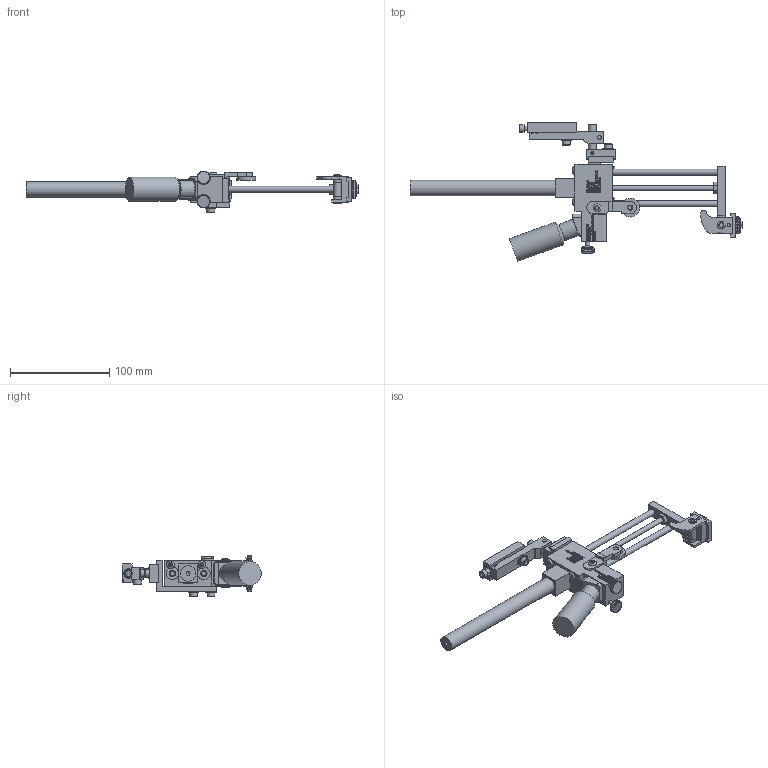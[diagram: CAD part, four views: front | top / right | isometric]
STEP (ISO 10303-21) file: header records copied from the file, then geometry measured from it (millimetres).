
FILE_DESCRIPTION((''),'2;1');
FILE_NAME('C:\Documents and Settings\Ron\My Documents\Inventor\Sprinter Drawing\Machines in Inventor\Model 66\Type\Ext Str\E2\Brkt\Ext\Model 66 E2 type Ext w brkt mod 2012.stp','2012-02-29T08:24:19',('Ron'),(''),'Autodesk Inventor 2011','Autodesk Inventor 2011','');
FILE_SCHEMA(('AUTOMOTIVE_DESIGN { 1 0 10303 214 1 1 1 1 }'));
Length unit declared in the file: inch
Products named in the file (43): Model 66 E2 type Ext w brkt mod 2012; 66 Frame Body Assy Std w brkt; 66 Frame Body; Hexagon Socket Button Head Cap Screw - Inch 8 - 32 x 1/4; Hexagon Socket Head Cap Screw - Inch No. 8 - 32 UNC - 1 1/2; 66 Linear Bearing; 66 Ink; 66 INK BOTTLE; 66 Ink Pad; 66 Wheel Bracket; 8-32x0.25 Hexagon Socket Button Head Cap Screw ANSI/ASME B18.3; 44 Cam Wheel; 44 Wheel Retainer; 10 Ink Resevior Lock Screw; Model 66 Bracket; Model 66 RPB; rpb4; rpb3; rpb-1; rpb2; No. 10-24x0.88 Hexagon socket head cap screw ANSI/ASME B18.3; Type B - Plain Washer (Inch) No. 10 - narrow - Type B; 66 Machine Mounting Pivot Bracket; Pin - Hardened Ground Machine Dowel (Inch) 1/8 x 3/8; Rod Carrier Extended E2; Rod Carrier Extended; 66 Rod Carrier; Type A - Hexagon Socket Set Screw - Cup Point - Inch 8-32 UNC x 0.32; 66 PIVOT SHAFT; 66 PIVOT SHAFT LOCKING RING; 23 66 invert block; AS 1112 (4)  - Metric M6; 66 Spring; 19 Rod Carrier Set Screws; 44 & up Removable Marking Head Securing Post; Hexagon Socket Set Screw - Flat Point - Inch 6-32 UNC x 0.45; 66 type clip; 66 Marking Head Plate; 66-28; Part # 28 - number 66 stamp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
Assembly tree (60 placements, depth 5):
  Model 66 E2 type Ext w brkt mod 2012
    66 Frame Body Assy Std w brkt
      66 Frame Body
      Hexagon Socket Button Head Cap Screw - Inch 8 - 32 x 1/4  x4
      Hexagon Socket Head Cap Screw - Inch No. 8 - 32 UNC - 1 1/2  x2
      66 Linear Bearing  x2
      66 Ink
      66 INK BOTTLE
      66 Ink Pad
      66 Wheel Bracket
      8-32x0.25 Hexagon Socket Button Head Cap Screw ANSI/ASME B18.3
      44 Cam Wheel
      44 Wheel Retainer
      10 Ink Resevior Lock Screw  x2
      Model 66 Bracket
        Model 66 RPB
          rpb4
          rpb3
          rpb-1
          rpb2
          No. 10-24x0.88 Hexagon socket head cap screw ANSI/ASME B18.3  x5
          Type B - Plain Washer (Inch) No. 10 - narrow - Type B  x4
          66 Machine Mounting Pivot Bracket
          Pin - Hardened Ground Machine Dowel (Inch) 1/8 x 3/8  x2
    Rod Carrier Extended E2
      Rod Carrier Extended
        66 Rod Carrier
        Type A - Hexagon Socket Set Screw - Cup Point - Inch 8-32 UNC x 0.32
        66 PIVOT SHAFT
        66 PIVOT SHAFT LOCKING RING  x2
        23 66 invert block
        AS 1112 (4)  - Metric M6
        66 Spring
        19 Rod Carrier Set Screws  x2
        44 & up Removable Marking Head Securing Post
        Hexagon Socket Set Screw - Flat Point - Inch 6-32 UNC x 0.45
        66 type clip
          66 Marking Head Plate
          44 & up Removable Marking Head Securing Post
          66-28
          Part # 28 - number 66 stamp
      E2  x2
    E2 Extended
    10-32 PORTS DECAL
Bounding box: 334.31 x 139.56 x 42.07 mm (x, y, z)
Volume: 179973.1 mm3; surface area: 91843.3 mm2
Topology: 427 solids, 427 shells, 6316 faces, 15463 edges, 9558 vertices
Faces by surface type: plane 4356, bspline 1301, cylinder 555, cone 81, torus 23
Full cylindrical faces by diameter (mm): 1.575 x1, 2.54 x2, 2.642 x2, 3.175 x4, 3.2 x1, 3.302 x12, 3.505 x1, 3.658 x1, 3.683 x2, 3.962 x12, 4.064 x2, 4.166 x10, 4.318 x2, 4.699 x3, 4.75 x3, 4.775 x2, 4.826 x8, 4.864 x2, 4.917 x1, 5.08 x2, 5.156 x7, 5.182 x1, 5.359 x1, 5.556 x1, 6.223 x2, 6.325 x2, 6.35 x5, 6.426 x1, 6.604 x1, 6.858 x2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
Entity records: 150148 total; most frequent: CARTESIAN_POINT 44656, ORIENTED_EDGE 23348, DIRECTION 16757, EDGE_CURVE 11674, VECTOR 8277, LINE 8277, VERTEX_POINT 7484, EDGE_LOOP 5214
